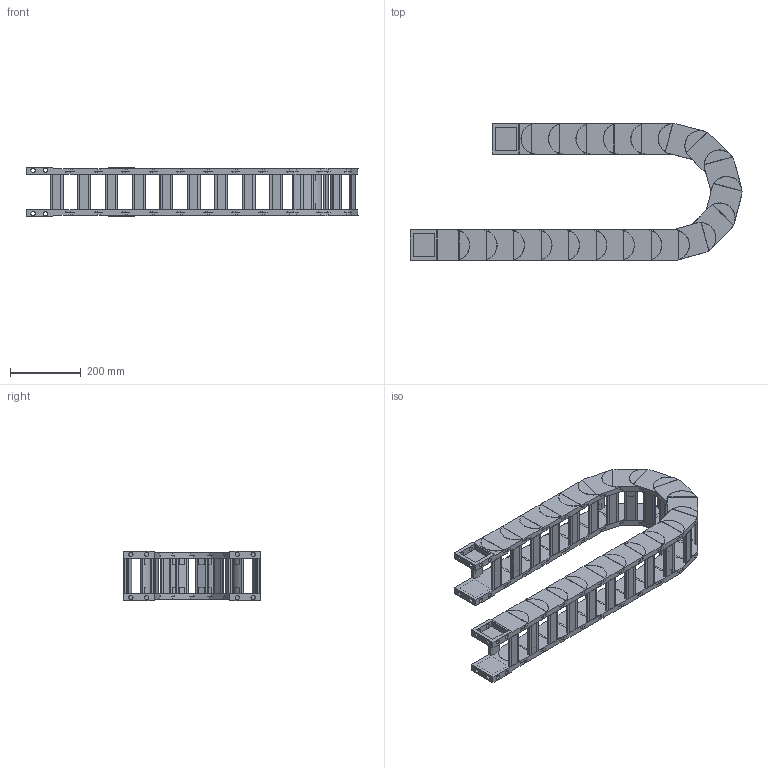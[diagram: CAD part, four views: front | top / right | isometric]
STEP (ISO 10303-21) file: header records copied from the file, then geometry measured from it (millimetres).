
FILE_DESCRIPTION((''),'2;1');
FILE_NAME('HD65-R150-ZPT_ASM','2022-06-18T10:58:24',('admin'),(''),'CREO PARAMETRIC BY PTC INC, 2021164','CREO PARAMETRIC BY PTC INC, 2021164','');
FILE_SCHEMA(('CONFIG_CONTROL_DESIGN','GEOMETRIC_VALIDATION_PROPERTIES_MIM'));
Length unit declared in the file: millimetre
Products named in the file (6): HD65; 65-50HDQSYP; HD65_ASM; H65-T1; H65-T2; HD65-R150-ZPT_ASM
Assembly tree (25 placements, depth 3):
  HD65-R150-ZPT_ASM
    HD65_ASM  x19
      HD65
      65-50HDQSYP
    H65-T1
    H65-T2
    65-50HDQSYP  x2
Bounding box: 937.04 x 386 x 140.3 mm (x, y, z)
Volume: 5946988.8 mm3; surface area: 1786878.9 mm2
Topology: 84 solids, 84 shells, 1556 faces, 4098 edges, 2798 vertices
Faces by surface type: plane 1192, cylinder 364
Entity records: 8884 total; most frequent: CARTESIAN_POINT 1326, DIRECTION 1294, ORIENTED_EDGE 1212, EDGE_CURVE 606, AXIS2_PLACEMENT_3D 435, VECTOR 424, LINE 424, VERTEX_POINT 410
